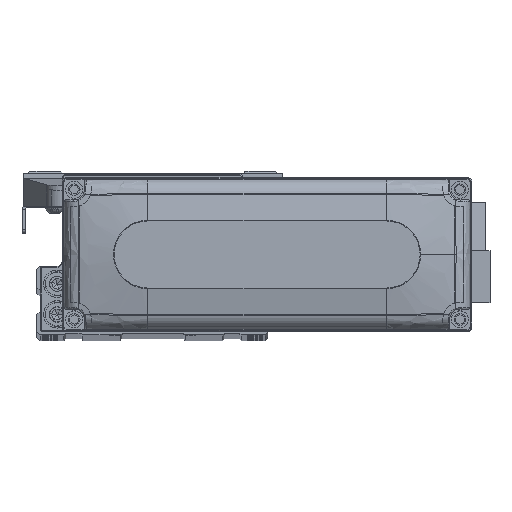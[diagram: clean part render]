
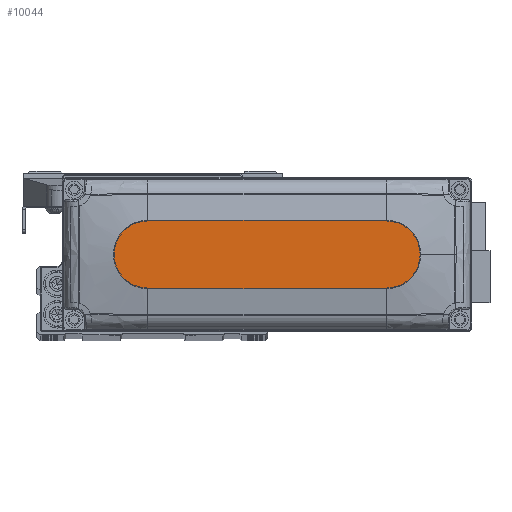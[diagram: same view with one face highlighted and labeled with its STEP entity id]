
A CAD part, top view. The second image highlights one B-rep face of the part: STEP entity #10044.
In plain terms, the highlighted planar face has unit normal (0, 0, 1).
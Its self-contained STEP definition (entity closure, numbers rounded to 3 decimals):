
#645 = DIRECTION ( 'NONE',  ( 0., 0., 1. ) ) ;
#1451 = CARTESIAN_POINT ( 'NONE',  ( -35., -10., 28. ) ) ;
#1554 = CIRCLE ( 'NONE', #28150, 10. ) ;
#2454 = EDGE_CURVE ( 'NONE', #34357, #35012, #25746, .T. ) ;
#7663 = DIRECTION ( 'NONE',  ( -1., 0., 0. ) ) ;
#7869 = EDGE_CURVE ( 'NONE', #32274, #8741, #34064, .T. ) ;
#7937 = CIRCLE ( 'NONE', #34546, 10. ) ;
#8741 = VERTEX_POINT ( 'NONE', #27034 ) ;
#8874 = DIRECTION ( 'NONE',  ( 0., 0., 1. ) ) ;
#10044 = ADVANCED_FACE ( 'NONE', ( #31797 ), #46309, .T. ) ;
#10756 = CARTESIAN_POINT ( 'NONE',  ( -35., 10., 28. ) ) ;
#10982 = EDGE_CURVE ( 'NONE', #35012, #32274, #7937, .T. ) ;
#11562 = DIRECTION ( 'NONE',  ( 1., 0., 0. ) ) ;
#12350 = AXIS2_PLACEMENT_3D ( 'NONE', #41458, #8874, #23379 ) ;
#13203 = VECTOR ( 'NONE', #7663, 1000. ) ;
#13713 = CARTESIAN_POINT ( 'NONE',  ( 0., 0., 28. ) ) ;
#15167 = DIRECTION ( 'NONE',  ( 1., 0., 0. ) ) ;
#15980 = DIRECTION ( 'NONE',  ( 1., 0., 0. ) ) ;
#17106 = EDGE_CURVE ( 'NONE', #8741, #26641, #32837, .T. ) ;
#18662 = CARTESIAN_POINT ( 'NONE',  ( -35., -10., 28. ) ) ;
#19183 = ORIENTED_EDGE ( 'NONE', *, *, #30485, .T. ) ;
#20495 = ORIENTED_EDGE ( 'NONE', *, *, #10982, .T. ) ;
#23379 = DIRECTION ( 'NONE',  ( 1., 0., 0. ) ) ;
#25746 = LINE ( 'NONE', #40271, #13203 ) ;
#26641 = VERTEX_POINT ( 'NONE', #32927 ) ;
#26763 = CARTESIAN_POINT ( 'NONE',  ( 35., 10., 28. ) ) ;
#27034 = CARTESIAN_POINT ( 'NONE',  ( 35., -10., 28. ) ) ;
#28150 = AXIS2_PLACEMENT_3D ( 'NONE', #29631, #44154, #11562 ) ;
#28199 = DIRECTION ( 'NONE',  ( 0., 0., 1. ) ) ;
#28385 = AXIS2_PLACEMENT_3D ( 'NONE', #13713, #28199, #42723 ) ;
#29609 = ORIENTED_EDGE ( 'NONE', *, *, #17106, .T. ) ;
#29631 = CARTESIAN_POINT ( 'NONE',  ( 35., 0., 28. ) ) ;
#30485 = EDGE_CURVE ( 'NONE', #26641, #34357, #1554, .T. ) ;
#31797 = FACE_OUTER_BOUND ( 'NONE', #35552, .T. ) ;
#32274 = VERTEX_POINT ( 'NONE', #18662 ) ;
#32837 = CIRCLE ( 'NONE', #12350, 10. ) ;
#32927 = CARTESIAN_POINT ( 'NONE',  ( 45., 0., 28. ) ) ;
#33255 = CARTESIAN_POINT ( 'NONE',  ( -35., 0., 28. ) ) ;
#34064 = LINE ( 'NONE', #1451, #44263 ) ;
#34357 = VERTEX_POINT ( 'NONE', #26763 ) ;
#34546 = AXIS2_PLACEMENT_3D ( 'NONE', #33255, #645, #15167 ) ;
#35012 = VERTEX_POINT ( 'NONE', #10756 ) ;
#35552 = EDGE_LOOP ( 'NONE', ( #44756, #20495, #37805, #29609, #19183 ) ) ;
#37805 = ORIENTED_EDGE ( 'NONE', *, *, #7869, .T. ) ;
#40271 = CARTESIAN_POINT ( 'NONE',  ( -35., 10., 28. ) ) ;
#41458 = CARTESIAN_POINT ( 'NONE',  ( 35., 0., 28. ) ) ;
#42723 = DIRECTION ( 'NONE',  ( 1., 0., 0. ) ) ;
#44154 = DIRECTION ( 'NONE',  ( 0., 0., 1. ) ) ;
#44263 = VECTOR ( 'NONE', #15980, 1000. ) ;
#44756 = ORIENTED_EDGE ( 'NONE', *, *, #2454, .T. ) ;
#46309 = PLANE ( 'NONE',  #28385 ) ;
